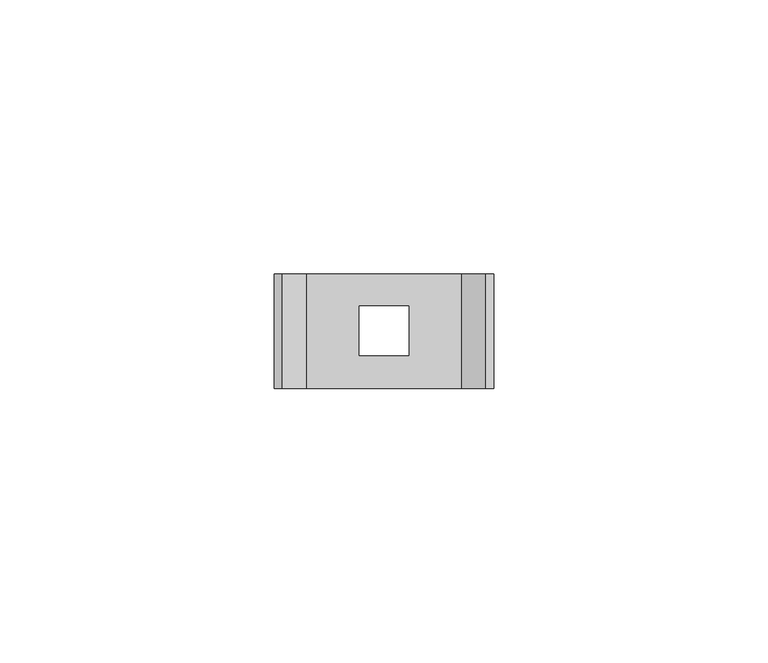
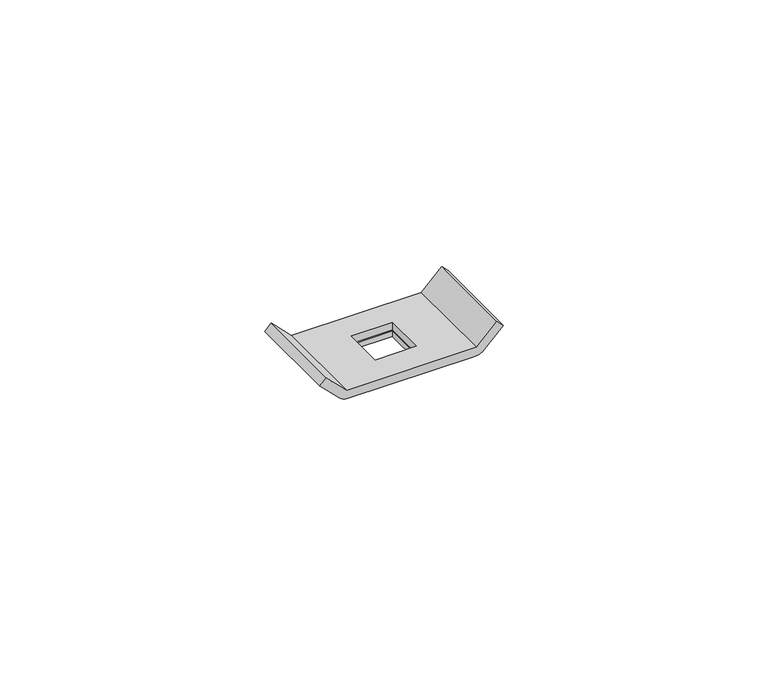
"""IFC4 building model written with IfcOpenShell, lengths in millimetres: cable carrier fitting geometry, BAKS_Mesh ceiling hanger_UKDSC : LKDSC."""

from ifc_helpers import new_model, si_unit, frame, origin, place, context, project, spatial, circle_curve, source, transform, mapped, element, save
from ifc_brep_helpers import plane_surface, cylinder_surface, spline_surface, advanced_brep


def cable_carrier_fitting_14ea2eab(model_context):
    return source(origin(), model_context, "Body", "AdvancedBrep", [
        advanced_brep(
        [(12.3284271, 5.5, -5.238961), (9.5, 8.3284271, -5.238961), (-9.5, 8.3284271, -5.238961), (-12.3284271, 5.5, -5.238961), (-12.3284271, -5.5, -5.238961), (-9.5, -8.3284271, -5.238961), (9.5, -8.3284271, -5.238961), (12.3284271, -5.5, -5.238961), (-4.5, 4.5, -5.238961), (4.5, 4.5, -5.238961), (4.5, -4.5, -5.238961), (-4.5, -4.5, -5.238961), (9.4715729, 5.4715729, -6.438961), (9.4715729, -5.4715729, -6.438961), (-9.4715729, -5.4715729, -6.438961), (-9.4715729, 5.4715729, -6.438961), (4.5, 4.5, -6.438961), (-4.5, 4.5, -6.438961), (-4.5, -4.5, -6.438961), (4.5, -4.5, -6.438961)],
        [
            (0, 1, circle_curve(frame((9.5, 5.5, -5.238961), z_axis=(0.0, 0.0, 1.0), x_axis=(1.0, 0.0, 0.0)), 2.8284271)),
            (1, 2),
            (2, 3, circle_curve(frame((-9.5, 5.5, -5.238961), z_axis=(0.0, 0.0, 1.0), x_axis=(1.0, 0.0, 0.0)), 2.8284271)),
            (3, 4),
            (4, 5, circle_curve(frame((-9.5, -5.5, -5.238961), z_axis=(0.0, 0.0, 1.0), x_axis=(1.0, 0.0, 0.0)), 2.8284271)),
            (5, 6),
            (6, 7, circle_curve(frame((9.5, -5.5, -5.238961), z_axis=(0.0, 0.0, 1.0), x_axis=(1.0, 0.0, 0.0)), 2.8284271)),
            (7, 0),
            (8, 9),
            (9, 10),
            (10, 11),
            (11, 8),
            (12, 13),
            (13, 14),
            (14, 15),
            (15, 12),
            (16, 17),
            (17, 18),
            (18, 19),
            (19, 16),
            (0, 12),
            (12, 1),
            (15, 2),
            (15, 3),
            (14, 4),
            (14, 5),
            (13, 6),
            (13, 7),
            (16, 9),
            (8, 17),
            (11, 18),
            (10, 19),
        ],
        [
            plane_surface(frame((0.0, 0.0, -5.238961), z_axis=(0.0, 0.0, 1.0), x_axis=(-1.0, 0.0, 0.0))),
            plane_surface(frame((0.0, 0.0, -6.438961), z_axis=(0.0, 0.0, -1.0), x_axis=(-1.0, 0.0, 0.0))),
            spline_surface(2, 1, [[(9.4715729, 5.4715729, -6.438961), (12.3284271, 5.5, -5.238961)], [(9.4715729, 5.4715729, -6.438961), (12.3284271, 8.3284271, -5.238961)], [(9.4715729, 5.4715729, -6.438961), (9.5, 8.3284271, -5.238961)]], [3, 3], [2, 2], [0.0, 1.0], [0.0, 1.0], weights=[[1.0, 1.0], [0.7071067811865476, 0.7071067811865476], [1.0, 1.0]]),
            plane_surface(frame((0.0, 5.4715729, -6.438961), z_axis=(0.0, 0.38726573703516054, -0.9219681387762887), x_axis=(-1.0, 0.0, 0.0))),
            spline_surface(2, 1, [[(-9.4715729, 5.4715729, -6.438961), (-9.5, 8.3284271, -5.238961)], [(-9.4715729, 5.4715729, -6.438961), (-12.3284271, 8.3284271, -5.238961)], [(-9.4715729, 5.4715729, -6.438961), (-12.3284271, 5.5, -5.238961)]], [3, 3], [2, 2], [0.0, 1.0], [0.0, 1.0], weights=[[1.0, 1.0], [0.7071067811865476, 0.7071067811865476], [1.0, 1.0]]),
            plane_surface(frame((-9.4715729, 0.0, -6.438961), z_axis=(-0.38726573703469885, 0.0, -0.9219681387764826), x_axis=(0.0, -1.0, 0.0))),
            spline_surface(2, 1, [[(-9.4715729, -5.4715729, -6.438961), (-12.3284271, -5.5, -5.238961)], [(-9.4715729, -5.4715729, -6.438961), (-12.3284271, -8.3284271, -5.238961)], [(-9.4715729, -5.4715729, -6.438961), (-9.5, -8.3284271, -5.238961)]], [3, 3], [2, 2], [0.0, 1.0], [0.0, 1.0], weights=[[1.0, 1.0], [0.7071067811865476, 0.7071067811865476], [1.0, 1.0]]),
            plane_surface(frame((0.0, -5.4715729, -6.438961), z_axis=(0.0, -0.3872657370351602, -0.9219681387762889), x_axis=(1.0, 0.0, 0.0))),
            spline_surface(2, 1, [[(9.4715729, -5.4715729, -6.438961), (9.5, -8.3284271, -5.238961)], [(9.4715729, -5.4715729, -6.438961), (12.3284271, -8.3284271, -5.238961)], [(9.4715729, -5.4715729, -6.438961), (12.3284271, -5.5, -5.238961)]], [3, 3], [2, 2], [0.0, 1.0], [0.0, 1.0], weights=[[1.0, 1.0], [0.7071067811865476, 0.7071067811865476], [1.0, 1.0]]),
            plane_surface(frame((9.4715729, 0.0, -6.438961), z_axis=(0.3872657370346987, 0.0, -0.9219681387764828), x_axis=(0.0, 1.0, 0.0))),
            plane_surface(frame((4.5, 4.5, 0.0), z_axis=(0.0, -1.0, 0.0), x_axis=(0.0, 0.0, -1.0))),
            plane_surface(frame((-4.5, 4.5, 0.0), z_axis=(1.0, 0.0, 0.0), x_axis=(0.0, 0.0, -1.0))),
            plane_surface(frame((-4.5, -4.5, 0.0), z_axis=(0.0, 1.0, 0.0), x_axis=(0.0, 0.0, -1.0))),
            plane_surface(frame((4.5, -4.5, 0.0), z_axis=(-1.0, 0.0, 0.0), x_axis=(0.0, 0.0, -1.0))),
        ],
        [
            (0, [[1, 2, 3, 4, 5, 6, 7, 8], [9, 10, 11, 12]]),
            (1, [[13, 14, 15, 16], [17, 18, 19, 20]]),
            (2, [[-1, 21, 22]]),
            (3, [[-2, -22, -16, 23]]),
            (4, [[-3, -23, 24]]),
            (5, [[-4, -24, -15, 25]]),
            (6, [[-5, -25, 26]]),
            (7, [[-6, -26, -14, 27]]),
            (8, [[-7, -27, 28]]),
            (9, [[-8, -28, -13, -21]]),
            (10, [[29, -9, 30, -17]]),
            (11, [[-30, -12, 31, -18]]),
            (12, [[-31, -11, 32, -19]]),
            (13, [[-29, -20, -32, -10]]),
        ],
    ),
        advanced_brep(
        [(-14.1715729, -10.5, -3.238961), (-18.554405, -10.5, 1.1438711), (-19.9681218, -10.5, -0.2698456), (-15.8781657, -10.5, -4.3598017), (-13.9928025, -10.5, -5.238961), (13.4626954, -10.5, -5.238961), (15.8781657, -10.5, -4.3598017), (19.9681218, -10.5, -0.2698456), (18.5543172, -10.5, 1.143959), (14.1713972, -10.5, -3.238961), (-14.1715729, 10.3284271, -3.238961), (14.1713972, 10.3284271, -3.238961), (18.5543172, 10.3284271, 1.143959), (19.9681218, 10.3284271, -0.2698456), (15.8781657, 10.3284271, -4.3598017), (13.4626954, 10.3284271, -5.238961), (-13.9928025, 10.3284271, -5.238961), (-15.8781657, 10.3284271, -4.3598017), (-19.9681218, 10.3284271, -0.2698456), (-18.554405, 10.3284271, 1.1438711), (4.5, 4.5, -5.238961), (-4.5, 4.5, -5.238961), (-4.5, -4.5, -5.238961), (4.5, -4.5, -5.238961), (-4.5, 4.5, -3.238961), (4.5, 4.5, -3.238961), (4.5, -4.5, -3.238961), (-4.5, -4.5, -3.238961)],
        [
            (0, 1),
            (1, 2),
            (2, 3),
            (3, 4, circle_curve(frame((-13.7277489, -10.5, -2.209385), z_axis=(0.0, -1.0, 0.0), x_axis=(-1.0, 0.0, 0.0)), 3.0411485)),
            (4, 5),
            (5, 6, circle_curve(frame((13.7277489, -10.5, -2.209385), z_axis=(0.0, -1.0, 0.0), x_axis=(1.0, 0.0, 0.0)), 3.0411485)),
            (6, 7),
            (7, 8),
            (8, 9),
            (9, 0),
            (10, 11),
            (11, 12),
            (12, 13),
            (13, 14),
            (14, 15, circle_curve(frame((13.7277489, 10.3284271, -2.209385), z_axis=(0.0, 1.0, 0.0), x_axis=(1.0, 0.0, 0.0)), 3.0411485)),
            (15, 16),
            (16, 17, circle_curve(frame((-13.7277489, 10.3284271, -2.209385), z_axis=(0.0, 1.0, 0.0), x_axis=(-1.0, 0.0, 0.0)), 3.0411485)),
            (17, 18),
            (18, 19),
            (19, 10),
            (0, 10),
            (19, 1),
            (18, 2),
            (17, 3),
            (16, 4),
            (15, 5),
            (20, 21),
            (21, 22),
            (22, 23),
            (23, 20),
            (14, 6),
            (13, 7),
            (12, 8),
            (11, 9),
            (24, 25),
            (25, 26),
            (26, 27),
            (27, 24),
            (20, 25),
            (24, 21),
            (27, 22),
            (26, 23),
        ],
        [
            plane_surface(frame((-18.5355339, -10.5, 1.125), z_axis=(0.0, -1.0, 0.0), x_axis=(-0.7071067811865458, 0.0, 0.7071067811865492))),
            plane_surface(frame((-18.5355339, 10.3284271, 1.125), z_axis=(0.0, 1.0, 0.0), x_axis=(0.7071067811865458, 0.0, -0.7071067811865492))),
            plane_surface(frame((-14.1715729, -10.5, -3.238961), z_axis=(0.7071067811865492, 0.0, 0.7071067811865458), x_axis=(0.0, 1.0, 0.0))),
            plane_surface(frame((-18.554405, -10.5, 1.1438711), z_axis=(-0.7071067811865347, 0.0, 0.7071067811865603), x_axis=(0.0, 1.0, 0.0))),
            plane_surface(frame((-19.9681218, -10.5, -0.2698456), z_axis=(-0.7071067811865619, 0.0, -0.7071067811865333), x_axis=(0.0, 1.0, 0.0))),
            cylinder_surface(frame((-13.7277489, 10.3284271, -2.209385), z_axis=(0.0, -1.0, 0.0), x_axis=(-1.0, 0.0, 0.0)), 3.0411485),
            plane_surface(frame((-13.9928025, -10.5, -5.238961), z_axis=(0.0, 0.0, -1.0), x_axis=(0.0, 1.0, 0.0))),
            cylinder_surface(frame((13.7277489, 10.3284271, -2.209385), z_axis=(0.0, -1.0, 0.0), x_axis=(1.0, 0.0, 0.0)), 3.0411485),
            plane_surface(frame((15.8781657, -10.5, -4.3598017), z_axis=(0.7071067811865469, 0.0, -0.7071067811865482), x_axis=(0.0, 1.0, 0.0))),
            plane_surface(frame((19.9681218, -10.5, -0.2698456), z_axis=(0.7071067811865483, 0.0, 0.7071067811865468), x_axis=(0.0, 1.0, 0.0))),
            plane_surface(frame((18.5543172, -10.5, 1.143959), z_axis=(-0.7071067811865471, 0.0, 0.7071067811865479), x_axis=(0.0, 1.0, 0.0))),
            plane_surface(frame((14.1713972, -10.5, -3.238961), z_axis=(0.0, 0.0, 1.0), x_axis=(0.0, 1.0, 0.0))),
            plane_surface(frame((4.5, 4.5, 0.0), z_axis=(0.0, -1.0, 0.0), x_axis=(0.0, 0.0, -1.0))),
            plane_surface(frame((-4.5, 4.5, 0.0), z_axis=(1.0, 0.0, 0.0), x_axis=(0.0, 0.0, -1.0))),
            plane_surface(frame((-4.5, -4.5, 0.0), z_axis=(0.0, 1.0, 0.0), x_axis=(0.0, 0.0, -1.0))),
            plane_surface(frame((4.5, -4.5, 0.0), z_axis=(-1.0, 0.0, 0.0), x_axis=(0.0, 0.0, -1.0))),
        ],
        [
            (0, [[1, 2, 3, 4, 5, 6, 7, 8, 9, 10]]),
            (1, [[11, 12, 13, 14, 15, 16, 17, 18, 19, 20]]),
            (2, [[-1, 21, -20, 22]]),
            (3, [[-2, -22, -19, 23]]),
            (4, [[-3, -23, -18, 24]]),
            (5, [[-4, -24, -17, 25]]),
            (6, [[-5, -25, -16, 26], [27, 28, 29, 30]]),
            (7, [[-6, -26, -15, 31]]),
            (8, [[-7, -31, -14, 32]]),
            (9, [[-8, -32, -13, 33]]),
            (10, [[-9, -33, -12, 34]]),
            (11, [[-10, -34, -11, -21], [35, 36, 37, 38]]),
            (12, [[39, -35, 40, -27]]),
            (13, [[-40, -38, 41, -28]]),
            (14, [[-41, -37, 42, -29]]),
            (15, [[-39, -30, -42, -36]]),
        ],
    ),
    ])


if __name__ == "__main__":
    model = new_model("IFC4")
    model_context = context("Model", 3, world=origin())
    ifc_project = project(units=[si_unit("LENGTHUNIT", "METRE", prefix="MILLI")], contexts=[model_context])
    site = spatial("IfcSite", under=ifc_project)
    building = spatial("IfcBuilding", under=site)
    placement = place(None, origin())
    cable_carrier_fitting_shape = cable_carrier_fitting_14ea2eab(model_context)
    element("IfcCableCarrierFitting", 1, ObjectType="BAKS_Mesh ceiling hanger_UKDSC : LKDSC", at=placement, inside=building, context=model_context, shape_type="MappedRepresentation", body=[
        mapped(cable_carrier_fitting_shape, transform((0.0, 0.0, 0.0), x_axis=(1.0, 0.0, 0.0), y_axis=(0.0, 1.0, 0.0), z_axis=(0.0, 0.0, 1.0))),
    ])
    save(model, "model.ifc")
